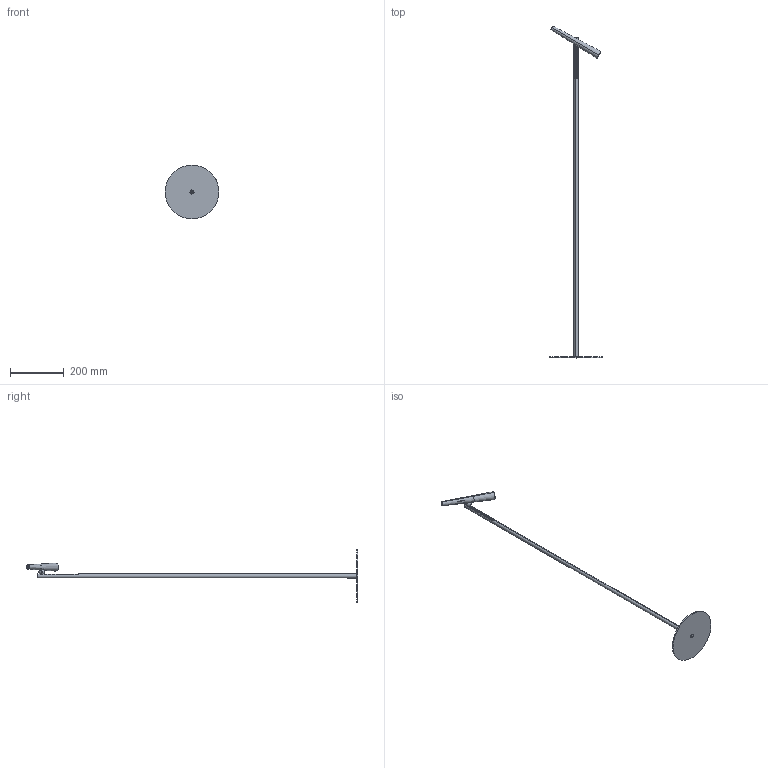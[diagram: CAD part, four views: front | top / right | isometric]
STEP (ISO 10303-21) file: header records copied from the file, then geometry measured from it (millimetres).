
FILE_DESCRIPTION (( 'STEP AP214' ), '1' );
FILE_NAME ('202_STD_R_LD_3D.STEP', '2021-04-29T12:52:30', ( '' ), ( '' ), 'SwSTEP 2.0', 'SolidWorks 2021', '' );
FILE_SCHEMA (( 'AUTOMOTIVE_DESIGN' ));
Length unit declared in the file: millimetre
Products named in the file (1): 202_STD_R_LD_3D
Bounding box: 200 x 1239.76 x 200 mm (x, y, z)
Volume: 344383.3 mm3; surface area: 163020.2 mm2
Topology: 5 solids, 5 shells, 238 faces, 603 edges, 358 vertices
Faces by surface type: sphere 65, torus 50, plane 42, cylinder 31, bspline 28, cone 22
Entity records: 13963 total; most frequent: CARTESIAN_POINT 5852, ORIENTED_EDGE 1168, DIRECTION 1150, EDGE_CURVE 584, AXIS2_PLACEMENT_3D 530, VERTEX_POINT 348, CIRCLE 319, EDGE_LOOP 256
